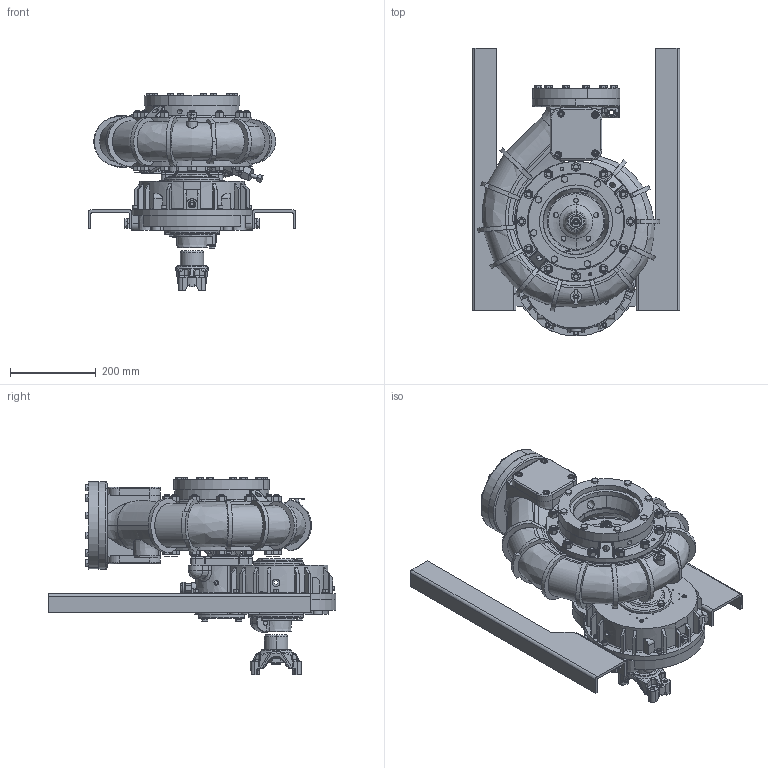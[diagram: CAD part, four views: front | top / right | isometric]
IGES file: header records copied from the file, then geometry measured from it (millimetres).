
Start section:  PTC IGES file: dld0800.igs
Global section: file name: dld0800.igs; native system: Creo Parametric by Parametric Technology Corporation; preprocessor: 2013150; author: SMS; organization: Unknown; date: 20140210.132252; units: inch
Bounding box: 482.6 x 669.53 x 460.08 mm (x, y, z)
Surface area: 1878971 mm2 (no closed solid volume)
Topology: 0 solids, 0 shells, 2545 faces, 13000 edges, 12980 vertices
Faces by surface type: bspline 1302, revolution 1241, extrusion 2
